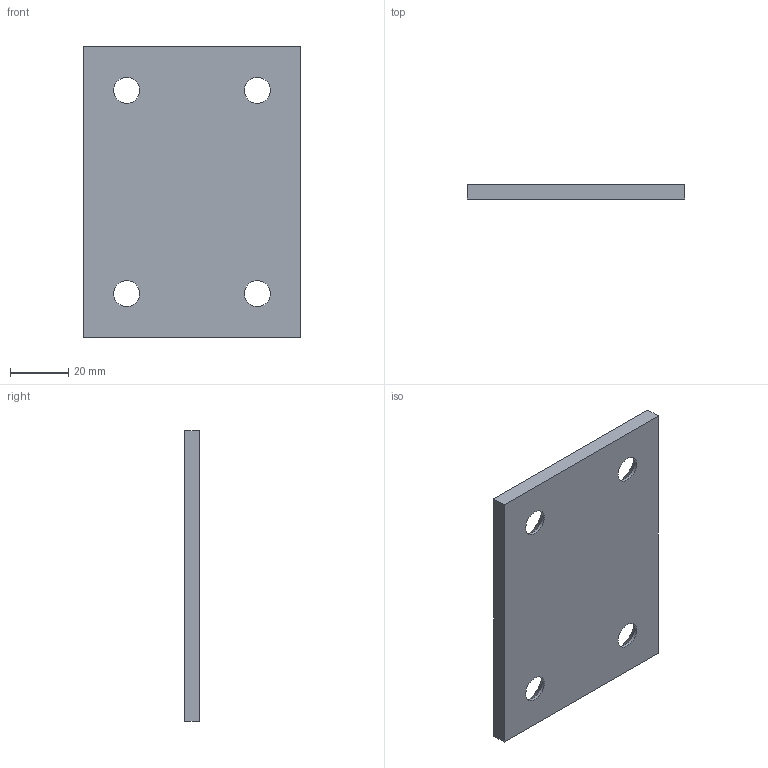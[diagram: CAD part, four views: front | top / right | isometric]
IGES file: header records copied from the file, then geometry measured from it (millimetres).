
Start section: Data from Parasolid IGES Translator 20.0.26, Copyright(c) 2006 Siemens P LM Software. All Rights Reserved.
Global section: file name: P605-01-075-100.igs; native system: By Siemens PLM Incorporated; preprocessor: XPlus GENERIC/IGES 20.0.26; author: Noname; organization: Noname; date: 20190705.150054; units: millimetre
Bounding box: 75 x 5 x 100 mm (x, y, z)
Surface area: 16624.8 mm2 (no closed solid volume)
Topology: 0 solids, 0 shells, 14 faces, 64 edges, 56 vertices
Faces by surface type: revolution 8, extrusion 6
